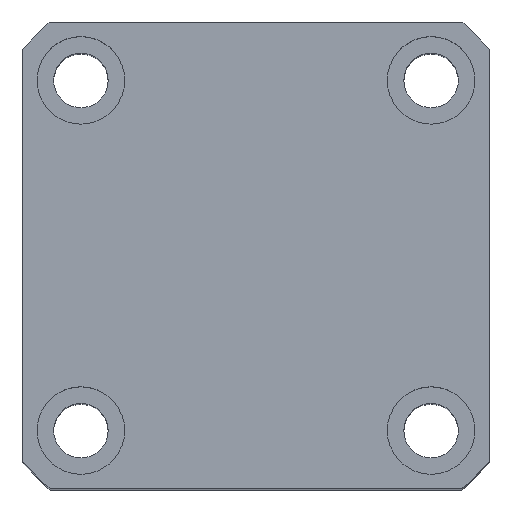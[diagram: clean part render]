
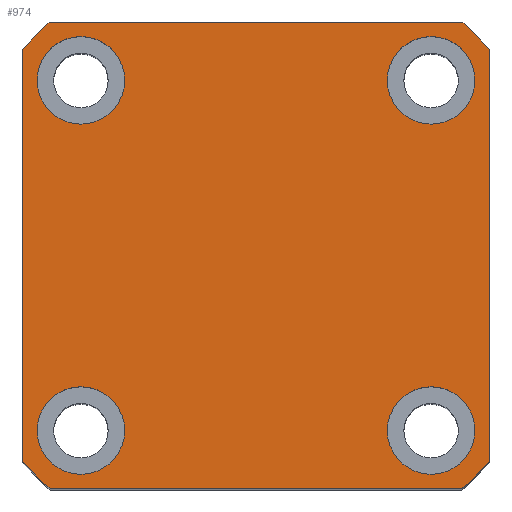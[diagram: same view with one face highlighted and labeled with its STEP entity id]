
A CAD part, top view. The second image highlights one B-rep face of the part: STEP entity #974.
In plain terms, the highlighted planar face has unit normal (0, 0, 1) as drawn and (1, 0, 0) by its records, which use the part's own axes.
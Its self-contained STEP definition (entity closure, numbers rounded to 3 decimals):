
#80 = DIRECTION ( 'NONE',  ( 0., 0., -1. ) ) ;
#103 = EDGE_LOOP ( 'NONE', ( #10114, #9872, #1688, #2191, #7091, #5272, #375, #3113 ) ) ;
#145 = DIRECTION ( 'NONE',  ( 0., 0., 1. ) ) ;
#224 = DIRECTION ( 'NONE',  ( 1., 0., 0. ) ) ;
#264 = AXIS2_PLACEMENT_3D ( 'NONE', #9581, #4690, #10392 ) ;
#290 = ORIENTED_EDGE ( 'NONE', *, *, #6976, .F. ) ;
#330 = PLANE ( 'NONE',  #3877 ) ;
#373 = FACE_BOUND ( 'NONE', #3594, .T. ) ;
#375 = ORIENTED_EDGE ( 'NONE', *, *, #1157, .T. ) ;
#396 = CIRCLE ( 'NONE', #3648, 32. ) ;
#457 = VECTOR ( 'NONE', #6045, 1000. ) ;
#651 = DIRECTION ( 'NONE',  ( 0., 0., -1. ) ) ;
#657 = VERTEX_POINT ( 'NONE', #7551 ) ;
#690 = VERTEX_POINT ( 'NONE', #7118 ) ;
#823 = AXIS2_PLACEMENT_3D ( 'NONE', #1166, #6942, #2005 ) ;
#833 = CARTESIAN_POINT ( 'NONE',  ( 65., -18., 18. ) ) ;
#899 = CARTESIAN_POINT ( 'NONE',  ( 65., 0., 0. ) ) ;
#974 = ADVANCED_FACE ( 'NONE', ( #8897, #4781, #373, #2603, #4516 ), #330, .T. ) ;
#990 = CARTESIAN_POINT ( 'NONE',  ( 65., 18., 18. ) ) ;
#1018 = DIRECTION ( 'NONE',  ( 1., 0., 0. ) ) ;
#1057 = DIRECTION ( 'NONE',  ( 0., 0., -1. ) ) ;
#1157 = EDGE_CURVE ( 'NONE', #4676, #7361, #9754, .T. ) ;
#1166 = CARTESIAN_POINT ( 'NONE',  ( 65., -18., -18. ) ) ;
#1296 = VECTOR ( 'NONE', #5210, 1000. ) ;
#1350 = ORIENTED_EDGE ( 'NONE', *, *, #10654, .F. ) ;
#1673 = DIRECTION ( 'NONE',  ( 0., 0., -1. ) ) ;
#1688 = ORIENTED_EDGE ( 'NONE', *, *, #9161, .T. ) ;
#1733 = AXIS2_PLACEMENT_3D ( 'NONE', #6879, #1926, #7682 ) ;
#1744 = DIRECTION ( 'NONE',  ( 0., 0., -1. ) ) ;
#1856 = VERTEX_POINT ( 'NONE', #8863 ) ;
#1926 = DIRECTION ( 'NONE',  ( 1., 0., 0. ) ) ;
#2003 = EDGE_LOOP ( 'NONE', ( #4583, #9394 ) ) ;
#2005 = DIRECTION ( 'NONE',  ( 0., 0., -1. ) ) ;
#2050 = CARTESIAN_POINT ( 'NONE',  ( 65., 0., 0. ) ) ;
#2191 = ORIENTED_EDGE ( 'NONE', *, *, #8840, .T. ) ;
#2228 = ORIENTED_EDGE ( 'NONE', *, *, #7542, .F. ) ;
#2281 = CARTESIAN_POINT ( 'NONE',  ( 65., 21.166, -24. ) ) ;
#2320 = CARTESIAN_POINT ( 'NONE',  ( 65., -18., -22.5 ) ) ;
#2502 = EDGE_CURVE ( 'NONE', #690, #9381, #5254, .T. ) ;
#2505 = ORIENTED_EDGE ( 'NONE', *, *, #10573, .F. ) ;
#2603 = FACE_BOUND ( 'NONE', #4137, .T. ) ;
#2708 = VERTEX_POINT ( 'NONE', #2281 ) ;
#2759 = EDGE_CURVE ( 'NONE', #8900, #1856, #10229, .T. ) ;
#2846 = AXIS2_PLACEMENT_3D ( 'NONE', #9711, #4831, #10534 ) ;
#2887 = CARTESIAN_POINT ( 'NONE',  ( 65., 0., 0. ) ) ;
#3113 = ORIENTED_EDGE ( 'NONE', *, *, #7320, .T. ) ;
#3138 = VERTEX_POINT ( 'NONE', #10407 ) ;
#3362 = CARTESIAN_POINT ( 'NONE',  ( 65., -18., 18. ) ) ;
#3376 = ORIENTED_EDGE ( 'NONE', *, *, #9296, .F. ) ;
#3389 = CIRCLE ( 'NONE', #7431, 4.5 ) ;
#3594 = EDGE_LOOP ( 'NONE', ( #2505, #3376 ) ) ;
#3637 = CIRCLE ( 'NONE', #9341, 4.5 ) ;
#3648 = AXIS2_PLACEMENT_3D ( 'NONE', #2887, #8629, #3708 ) ;
#3708 = DIRECTION ( 'NONE',  ( 0., 0., -1. ) ) ;
#3766 = DIRECTION ( 'NONE',  ( 1., 0., 0. ) ) ;
#3849 = VERTEX_POINT ( 'NONE', #4376 ) ;
#3877 = AXIS2_PLACEMENT_3D ( 'NONE', #2050, #224, #80 ) ;
#3962 = DIRECTION ( 'NONE',  ( 1., 0., 0. ) ) ;
#4058 = AXIS2_PLACEMENT_3D ( 'NONE', #8885, #3962, #9676 ) ;
#4137 = EDGE_LOOP ( 'NONE', ( #4163, #2228 ) ) ;
#4163 = ORIENTED_EDGE ( 'NONE', *, *, #2502, .F. ) ;
#4180 = CIRCLE ( 'NONE', #9794, 32. ) ;
#4205 = DIRECTION ( 'NONE',  ( 0., 0., -1. ) ) ;
#4376 = CARTESIAN_POINT ( 'NONE',  ( 65., 18., -13.5 ) ) ;
#4386 = VERTEX_POINT ( 'NONE', #4523 ) ;
#4516 = FACE_OUTER_BOUND ( 'NONE', #103, .T. ) ;
#4523 = CARTESIAN_POINT ( 'NONE',  ( 65., 18., -22.5 ) ) ;
#4583 = ORIENTED_EDGE ( 'NONE', *, *, #2759, .F. ) ;
#4662 = CARTESIAN_POINT ( 'NONE',  ( 65., 18., 22.5 ) ) ;
#4676 = VERTEX_POINT ( 'NONE', #9769 ) ;
#4690 = DIRECTION ( 'NONE',  ( 1., 0., 0. ) ) ;
#4765 = VERTEX_POINT ( 'NONE', #6748 ) ;
#4781 = FACE_BOUND ( 'NONE', #8024, .T. ) ;
#4831 = DIRECTION ( 'NONE',  ( 1., 0., 0. ) ) ;
#4861 = CIRCLE ( 'NONE', #823, 4.5 ) ;
#4900 = EDGE_CURVE ( 'NONE', #9568, #2708, #7059, .T. ) ;
#4974 = EDGE_CURVE ( 'NONE', #1856, #8900, #4861, .T. ) ;
#5099 = CARTESIAN_POINT ( 'NONE',  ( 65., -21.166, -24. ) ) ;
#5210 = DIRECTION ( 'NONE',  ( 0., 0., -1. ) ) ;
#5254 = CIRCLE ( 'NONE', #9631, 4.5 ) ;
#5258 = CARTESIAN_POINT ( 'NONE',  ( 65., -24., 24. ) ) ;
#5272 = ORIENTED_EDGE ( 'NONE', *, *, #5298, .T. ) ;
#5298 = EDGE_CURVE ( 'NONE', #4765, #4676, #9328, .T. ) ;
#5590 = DIRECTION ( 'NONE',  ( 1., 0., 0. ) ) ;
#5998 = AXIS2_PLACEMENT_3D ( 'NONE', #10464, #5590, #651 ) ;
#6045 = DIRECTION ( 'NONE',  ( 0., 1., 0. ) ) ;
#6102 = LINE ( 'NONE', #9990, #8025 ) ;
#6487 = VERTEX_POINT ( 'NONE', #7053 ) ;
#6535 = CIRCLE ( 'NONE', #4058, 4.5 ) ;
#6615 = DIRECTION ( 'NONE',  ( 1., 0., 0. ) ) ;
#6667 = CARTESIAN_POINT ( 'NONE',  ( 65., 24., 24. ) ) ;
#6689 = DIRECTION ( 'NONE',  ( 1., 0., 0. ) ) ;
#6748 = CARTESIAN_POINT ( 'NONE',  ( 65., -21.166, 24. ) ) ;
#6843 = VERTEX_POINT ( 'NONE', #7368 ) ;
#6879 = CARTESIAN_POINT ( 'NONE',  ( 65., 0., 0. ) ) ;
#6895 = CIRCLE ( 'NONE', #5998, 32. ) ;
#6942 = DIRECTION ( 'NONE',  ( 1., 0., 0. ) ) ;
#6947 = CARTESIAN_POINT ( 'NONE',  ( 65., 21.166, 24. ) ) ;
#6976 = EDGE_CURVE ( 'NONE', #657, #6843, #3637, .T. ) ;
#7053 = CARTESIAN_POINT ( 'NONE',  ( 65., 24., -21.166 ) ) ;
#7059 = LINE ( 'NONE', #8465, #457 ) ;
#7091 = ORIENTED_EDGE ( 'NONE', *, *, #10234, .T. ) ;
#7118 = CARTESIAN_POINT ( 'NONE',  ( 65., 18., 13.5 ) ) ;
#7320 = EDGE_CURVE ( 'NONE', #7361, #9568, #396, .T. ) ;
#7361 = VERTEX_POINT ( 'NONE', #9432 ) ;
#7368 = CARTESIAN_POINT ( 'NONE',  ( 65., -18., 22.5 ) ) ;
#7431 = AXIS2_PLACEMENT_3D ( 'NONE', #8685, #3766, #9484 ) ;
#7462 = DIRECTION ( 'NONE',  ( 0., -1., 0. ) ) ;
#7542 = EDGE_CURVE ( 'NONE', #9381, #690, #10281, .T. ) ;
#7546 = VECTOR ( 'NONE', #7462, 1000. ) ;
#7551 = CARTESIAN_POINT ( 'NONE',  ( 65., -18., 13.5 ) ) ;
#7682 = DIRECTION ( 'NONE',  ( 0., 0., -1. ) ) ;
#7795 = LINE ( 'NONE', #6667, #7546 ) ;
#7914 = AXIS2_PLACEMENT_3D ( 'NONE', #833, #6615, #1673 ) ;
#8024 = EDGE_LOOP ( 'NONE', ( #290, #1350 ) ) ;
#8025 = VECTOR ( 'NONE', #145, 1000. ) ;
#8183 = CIRCLE ( 'NONE', #7914, 4.5 ) ;
#8465 = CARTESIAN_POINT ( 'NONE',  ( 65., 24., -24. ) ) ;
#8629 = DIRECTION ( 'NONE',  ( 1., 0., 0. ) ) ;
#8685 = CARTESIAN_POINT ( 'NONE',  ( 65., 18., -18. ) ) ;
#8840 = EDGE_CURVE ( 'NONE', #3138, #9260, #6895, .T. ) ;
#8863 = CARTESIAN_POINT ( 'NONE',  ( 65., -18., -13.5 ) ) ;
#8885 = CARTESIAN_POINT ( 'NONE',  ( 65., 18., -18. ) ) ;
#8897 = FACE_BOUND ( 'NONE', #2003, .T. ) ;
#8900 = VERTEX_POINT ( 'NONE', #2320 ) ;
#9045 = EDGE_CURVE ( 'NONE', #2708, #6487, #4180, .T. ) ;
#9104 = DIRECTION ( 'NONE',  ( 1., 0., 0. ) ) ;
#9161 = EDGE_CURVE ( 'NONE', #6487, #3138, #6102, .T. ) ;
#9260 = VERTEX_POINT ( 'NONE', #6947 ) ;
#9296 = EDGE_CURVE ( 'NONE', #3849, #4386, #3389, .T. ) ;
#9328 = CIRCLE ( 'NONE', #1733, 32. ) ;
#9341 = AXIS2_PLACEMENT_3D ( 'NONE', #3362, #9104, #4205 ) ;
#9381 = VERTEX_POINT ( 'NONE', #4662 ) ;
#9394 = ORIENTED_EDGE ( 'NONE', *, *, #4974, .F. ) ;
#9432 = CARTESIAN_POINT ( 'NONE',  ( 65., -24., -21.166 ) ) ;
#9484 = DIRECTION ( 'NONE',  ( 0., 0., -1. ) ) ;
#9568 = VERTEX_POINT ( 'NONE', #5099 ) ;
#9581 = CARTESIAN_POINT ( 'NONE',  ( 65., 18., 18. ) ) ;
#9631 = AXIS2_PLACEMENT_3D ( 'NONE', #990, #1018, #1057 ) ;
#9676 = DIRECTION ( 'NONE',  ( 0., 0., -1. ) ) ;
#9711 = CARTESIAN_POINT ( 'NONE',  ( 65., -18., -18. ) ) ;
#9754 = LINE ( 'NONE', #5258, #1296 ) ;
#9769 = CARTESIAN_POINT ( 'NONE',  ( 65., -24., 21.166 ) ) ;
#9794 = AXIS2_PLACEMENT_3D ( 'NONE', #899, #6689, #1744 ) ;
#9872 = ORIENTED_EDGE ( 'NONE', *, *, #9045, .T. ) ;
#9990 = CARTESIAN_POINT ( 'NONE',  ( 65., 24., 24. ) ) ;
#10114 = ORIENTED_EDGE ( 'NONE', *, *, #4900, .T. ) ;
#10229 = CIRCLE ( 'NONE', #2846, 4.5 ) ;
#10234 = EDGE_CURVE ( 'NONE', #9260, #4765, #7795, .T. ) ;
#10281 = CIRCLE ( 'NONE', #264, 4.5 ) ;
#10392 = DIRECTION ( 'NONE',  ( 0., 0., -1. ) ) ;
#10407 = CARTESIAN_POINT ( 'NONE',  ( 65., 24., 21.166 ) ) ;
#10464 = CARTESIAN_POINT ( 'NONE',  ( 65., 0., 0. ) ) ;
#10534 = DIRECTION ( 'NONE',  ( 0., 0., -1. ) ) ;
#10573 = EDGE_CURVE ( 'NONE', #4386, #3849, #6535, .T. ) ;
#10654 = EDGE_CURVE ( 'NONE', #6843, #657, #8183, .T. ) ;
